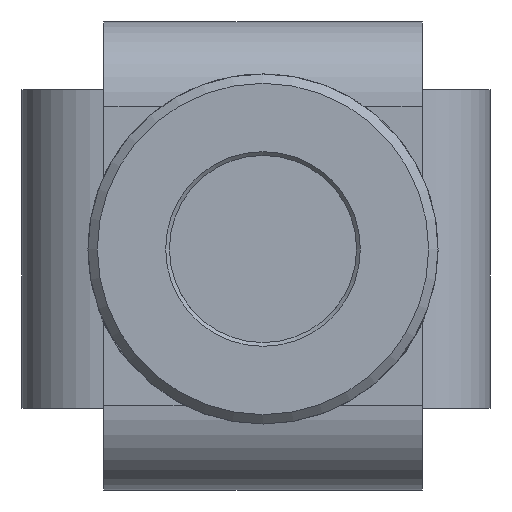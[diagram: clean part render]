
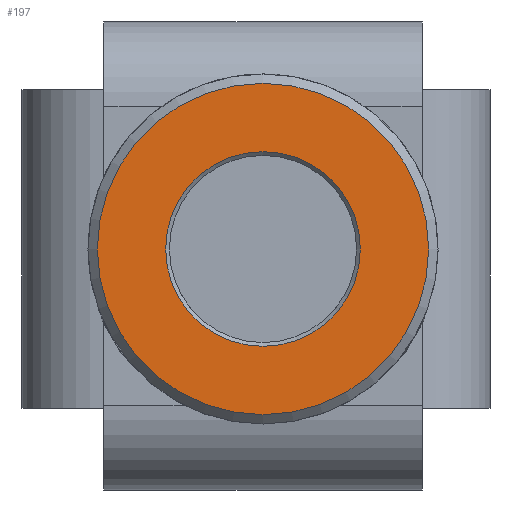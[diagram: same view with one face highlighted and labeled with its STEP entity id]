
A CAD part, left-side view. The second image highlights one B-rep face of the part: STEP entity #197.
In plain terms, the highlighted planar face has unit normal (-1, 0, 0).
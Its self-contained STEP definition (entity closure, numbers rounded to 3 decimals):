
#197 = ADVANCED_FACE( '', ( #515, #516 ), #517, .F. );
#515 = FACE_OUTER_BOUND( '', #863, .T. );
#516 = FACE_BOUND( '', #864, .T. );
#517 = PLANE( '', #865 );
#863 = EDGE_LOOP( '', ( #1781 ) );
#864 = EDGE_LOOP( '', ( #1782 ) );
#865 = AXIS2_PLACEMENT_3D( '', #1783, #1784, #1785 );
#1781 = ORIENTED_EDGE( '', *, *, #2267, .F. );
#1782 = ORIENTED_EDGE( '', *, *, #2215, .T. );
#1783 = CARTESIAN_POINT( '', ( -10.725, 0., 0. ) );
#1784 = DIRECTION( '', ( 1., 0., 0. ) );
#1785 = DIRECTION( '', ( 0., 0., -1. ) );
#2215 = EDGE_CURVE( '', #2683, #2683, #2684, .T. );
#2267 = EDGE_CURVE( '', #2766, #2766, #2767, .T. );
#2683 = VERTEX_POINT( '', #3646 );
#2684 = CIRCLE( '', #3647, 5.2 );
#2766 = VERTEX_POINT( '', #3765 );
#2767 = CIRCLE( '', #3766, 8.85 );
#3646 = CARTESIAN_POINT( '', ( -10.725, 0., -5.2 ) );
#3647 = AXIS2_PLACEMENT_3D( '', #4187, #4188, #4189 );
#3765 = CARTESIAN_POINT( '', ( -10.725, 0., -8.85 ) );
#3766 = AXIS2_PLACEMENT_3D( '', #4265, #4266, #4267 );
#4187 = CARTESIAN_POINT( '', ( -10.725, 0., 0. ) );
#4188 = DIRECTION( '', ( 1., 0., 0. ) );
#4189 = DIRECTION( '', ( 0., 0., -1. ) );
#4265 = CARTESIAN_POINT( '', ( -10.725, 0., 0. ) );
#4266 = DIRECTION( '', ( 1., 0., 0. ) );
#4267 = DIRECTION( '', ( 0., 0., -1. ) );
